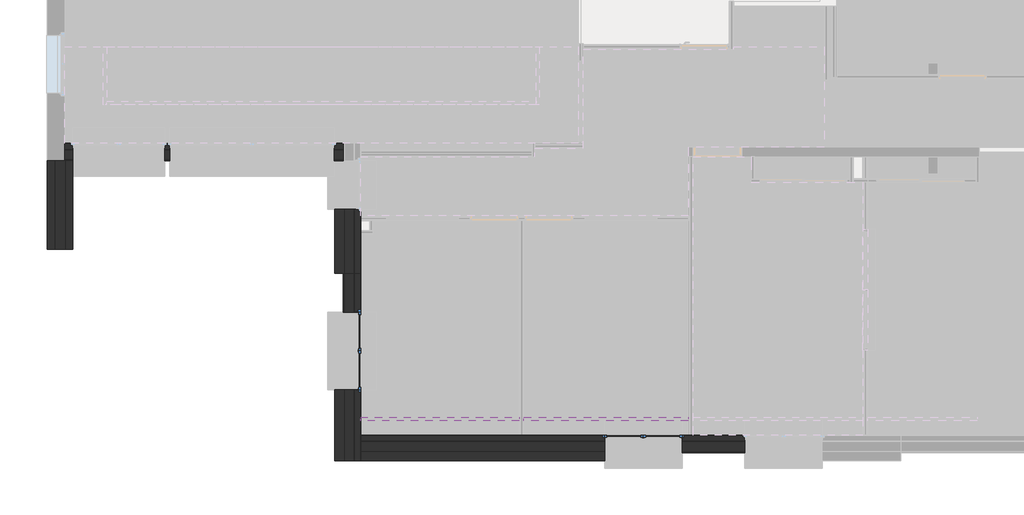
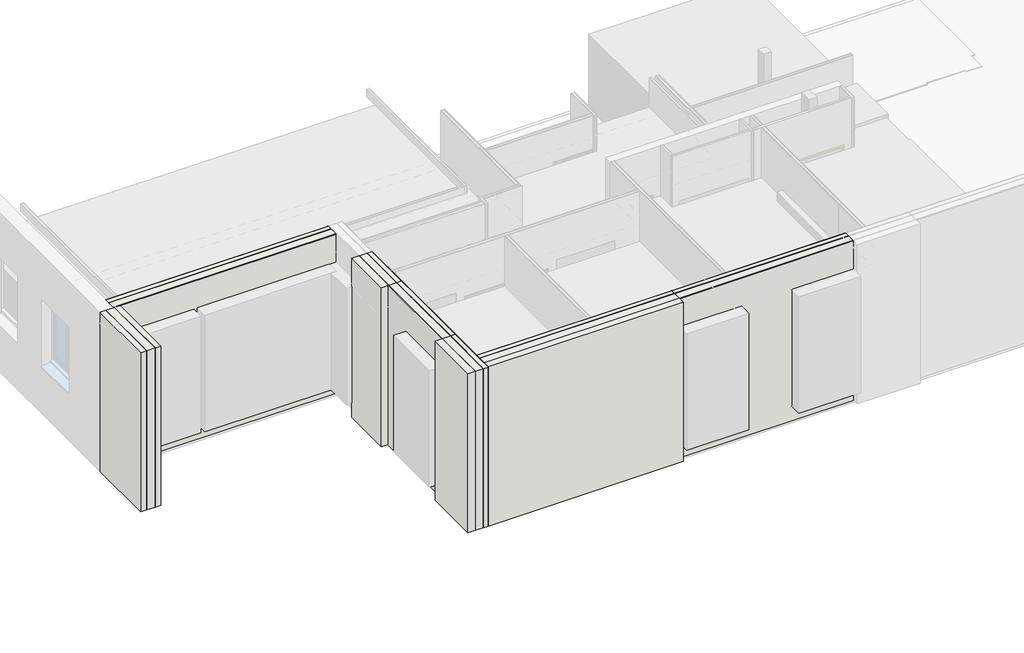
# One storey, part 1 of 8: 9 walls, 2 windows.
"""IFC4 building model written with IfcOpenShell, lengths in millimetres."""

from ifc_helpers import new_model, si_unit, frame, origin, place, context, project, spatial, polyline, outline, extrude, faceted_brep, transform, mapped, element, save
from components import window_4ef66e8a

model = new_model("IFC4")

# Units and contexts
model_context = context("Model", 3, world=origin())
ifc_project = project(units=[si_unit("LENGTHUNIT", "METRE", prefix="MILLI")], contexts=[model_context])

# Site, building, storey
site = spatial("IfcSite", under=ifc_project)
building = spatial("IfcBuilding", under=site)
storey = spatial("IfcBuildingStorey", under=building, Name="0 Mairie RDC 0.00", Elevation=0.0)

# Walls
placement = place(None, origin())
element("IfcWall", 1, ObjectType="Murs - Mur de base - A Enduit 2 + Béton 20 + vide 1 +  Doublage 13", at=placement, inside=storey, context=model_context, shape_type="Brep", body=[
    faceted_brep([(-18738.6355893, -14338.5662223, 3950.0), (-14238.6355893, -14338.5662223, 3950.0), (-14238.6355893, -14318.5662223, 3950.0), (-18738.6355893, -14318.5662223, 3950.0), (-18738.6355893, -14338.5662223, -400.0), (-18738.6355893, -14318.5662223, -400.0), (-14238.6355893, -14318.5662223, -400.0), (-14238.6355893, -14338.5662223, -400.0), (-18738.6355893, -14338.5662223, 3185.0), (-17138.6355893, -14338.5662223, 3185.0), (-17138.6355893, -14338.5662223, 5.5708141), (-18738.6355893, -14338.5662223, 5.5708141), (-14238.6355893, -14338.5662223, 5.5708141), (-15838.6355893, -14338.5662223, 5.5708141), (-15838.6355893, -14338.5662223, 3185.0), (-14238.6355893, -14338.5662223, 3185.0), (-14238.6355893, -14318.5662223, 3185.0), (-14238.6355893, -14318.5662223, 7.6728988), (-15838.6355893, -14318.5662223, 3185.0), (-15838.6355893, -14318.5662223, 7.6728988), (-18738.6355893, -14318.5662223, 7.6728988), (-17138.6355893, -14318.5662223, 7.6728988), (-17138.6355893, -14318.5662223, 3185.0), (-18738.6355893, -14318.5662223, 3185.0)], [[[0, 1, 2, 3]], [[4, 5, 6, 7]], [[1, 0, 8, 9, 10, 11, 4, 7, 12, 13, 14, 15]], [[2, 1, 15, 16]], [[7, 6, 17, 12]], [[3, 2, 16, 18, 19, 17, 6, 5, 20, 21, 22, 23]], [[0, 3, 23, 8]], [[5, 4, 11, 20]], [[15, 14, 18, 16]], [[13, 12, 17, 19]], [[14, 13, 19, 18]], [[9, 22, 21, 10]], [[22, 9, 8, 23]], [[10, 21, 20, 11]]]),
    faceted_brep([(-18738.6355893, -14318.5662223, 3950.0), (-14238.6355893, -14318.5662223, 3950.0), (-14238.6355893, -14118.5662223, 3950.0), (-18738.6355893, -14118.5662223, 3950.0), (-18738.6355893, -14318.5662223, -400.0), (-18738.6355893, -14118.5662223, -400.0), (-14238.6355893, -14118.5662223, -400.0), (-14238.6355893, -14318.5662223, -400.0), (-18738.6355893, -14318.5662223, 3185.0), (-17138.6355893, -14318.5662223, 3185.0), (-17138.6355893, -14318.5662223, 7.6728988), (-18738.6355893, -14318.5662223, 7.6728988), (-14238.6355893, -14318.5662223, 7.6728988), (-15838.6355893, -14318.5662223, 7.6728988), (-15838.6355893, -14318.5662223, 3185.0), (-14238.6355893, -14318.5662223, 3185.0), (-14238.6355893, -14118.5662223, 3185.0), (-14238.6355893, -14118.5662223, 28.6937459), (-15838.6355893, -14118.5662223, 3185.0), (-15838.6355893, -14118.5662223, 28.6937459), (-18738.6355893, -14118.5662223, 28.6937459), (-17138.6355893, -14118.5662223, 28.6937459), (-17138.6355893, -14118.5662223, 3185.0), (-18738.6355893, -14118.5662223, 3185.0)], [[[0, 1, 2, 3]], [[4, 5, 6, 7]], [[1, 0, 8, 9, 10, 11, 4, 7, 12, 13, 14, 15]], [[2, 1, 15, 16]], [[7, 6, 17, 12]], [[3, 2, 16, 18, 19, 17, 6, 5, 20, 21, 22, 23]], [[0, 3, 23, 8]], [[5, 4, 11, 20]], [[15, 14, 18, 16]], [[13, 12, 17, 19]], [[14, 13, 19, 18]], [[9, 22, 21, 10]], [[22, 9, 8, 23]], [[10, 21, 20, 11]]]),
    faceted_brep([(-18738.6355893, -14118.5662223, 3950.0), (-14238.6355893, -14118.5662223, 3950.0), (-14238.6355893, -14108.5662223, 3950.0), (-18738.6355893, -14108.5662223, 3950.0), (-18738.6355893, -14118.5662223, -400.0), (-18738.6355893, -14108.5662223, -400.0), (-14238.6355893, -14108.5662223, -400.0), (-14238.6355893, -14118.5662223, -400.0), (-18738.6355893, -14118.5662223, 3185.0), (-17138.6355893, -14118.5662223, 3185.0), (-17138.6355893, -14118.5662223, 28.6937459), (-18738.6355893, -14118.5662223, 28.6937459), (-14238.6355893, -14118.5662223, 28.6937459), (-15838.6355893, -14118.5662223, 28.6937459), (-15838.6355893, -14118.5662223, 3185.0), (-14238.6355893, -14118.5662223, 3185.0), (-14238.6355893, -14108.5662223, 3185.0), (-14238.6355893, -14108.5662223, 29.7447882), (-15838.6355893, -14108.5662223, 3185.0), (-15838.6355893, -14108.5662223, 29.7447882), (-18738.6355893, -14108.5662223, 29.7447882), (-17138.6355893, -14108.5662223, 29.7447882), (-17138.6355893, -14108.5662223, 3185.0), (-18738.6355893, -14108.5662223, 3185.0)], [[[0, 1, 2, 3]], [[4, 5, 6, 7]], [[1, 0, 8, 9, 10, 11, 4, 7, 12, 13, 14, 15]], [[2, 1, 15, 16]], [[7, 6, 17, 12]], [[3, 2, 16, 18, 19, 17, 6, 5, 20, 21, 22, 23]], [[0, 3, 23, 8]], [[5, 4, 11, 20]], [[15, 14, 18, 16]], [[13, 12, 17, 19]], [[14, 13, 19, 18]], [[9, 22, 21, 10]], [[22, 9, 8, 23]], [[10, 21, 20, 11]]]),
    faceted_brep([(-18738.6355893, -14108.5662223, 3950.0), (-14238.6355893, -14108.5662223, 3950.0), (-14238.6355893, -13988.5662223, 3950.0), (-18738.6355893, -13988.5662223, 3950.0), (-18738.6355893, -14108.5662223, -400.0), (-18738.6355893, -13988.5662223, -400.0), (-14238.6355893, -13988.5662223, -400.0), (-14238.6355893, -14108.5662223, -400.0), (-18738.6355893, -14108.5662223, 3185.0), (-17138.6355893, -14108.5662223, 3185.0), (-17138.6355893, -14108.5662223, 29.7447882), (-18738.6355893, -14108.5662223, 29.7447882), (-14238.6355893, -14108.5662223, 29.7447882), (-15838.6355893, -14108.5662223, 29.7447882), (-15838.6355893, -14108.5662223, 3185.0), (-14238.6355893, -14108.5662223, 3185.0), (-14238.6355893, -14078.5662223, 3185.0), (-14238.6355893, -14078.5662223, 3195.0), (-14238.6355893, -14028.5662223, 3195.0), (-14238.6355893, -14028.5662223, 3235.0), (-14238.6355893, -13988.5662223, 3235.0), (-14238.6355893, -13988.5662223, 35.0), (-14238.6355893, -14058.5662223, 35.0), (-15888.6355893, -13988.5662223, 3235.0), (-15888.6355893, -13988.5662223, 35.0), (-18738.6355893, -13988.5662223, 35.0), (-17088.6355893, -13988.5662223, 35.0), (-17088.6355893, -13988.5662223, 3235.0), (-18738.6355893, -13988.5662223, 3235.0), (-18738.6355893, -14028.5662223, 3235.0), (-18738.6355893, -14028.5662223, 3195.0), (-18738.6355893, -14078.5662223, 3195.0), (-18738.6355893, -14078.5662223, 3185.0), (-18738.6355893, -14058.5662223, 35.0), (-15888.6355893, -14028.5662223, 35.0), (-15848.6355893, -14028.5662223, 35.0), (-15848.6355893, -14078.5662223, 35.0), (-15838.6355893, -14078.5662223, 35.0), (-15838.6355893, -14058.5662223, 35.0), (-15838.6355893, -14078.5662223, 3185.0), (-15848.6355893, -14028.5662223, 3195.0), (-15888.6355893, -14028.5662223, 3235.0), (-15848.6355893, -14078.5662223, 3195.0), (-17138.6355893, -14078.5662223, 35.0), (-17138.6355893, -14058.5662223, 35.0), (-17138.6355893, -14078.5662223, 3185.0), (-17128.6355893, -14078.5662223, 35.0), (-17128.6355893, -14028.5662223, 35.0), (-17088.6355893, -14028.5662223, 35.0), (-17088.6355893, -14028.5662223, 3235.0), (-17128.6355893, -14028.5662223, 3195.0), (-17128.6355893, -14078.5662223, 3195.0)], [[[0, 1, 2, 3]], [[4, 5, 6, 7]], [[1, 0, 8, 9, 10, 11, 4, 7, 12, 13, 14, 15]], [[2, 1, 15, 16, 17, 18, 19, 20]], [[7, 6, 21, 22, 12]], [[3, 2, 20, 23, 24, 21, 6, 5, 25, 26, 27, 28]], [[0, 3, 28, 29, 30, 31, 32, 8]], [[5, 4, 11, 33, 25]], [[22, 21, 24, 34, 35, 36, 37, 38]], [[15, 14, 39, 16]], [[13, 12, 22, 38]], [[19, 18, 40, 35, 34, 41]], [[17, 16, 39, 37, 36, 42]], [[20, 19, 41, 23]], [[18, 17, 42, 40]], [[24, 23, 41, 34]], [[36, 35, 40, 42]], [[14, 13, 38, 37, 39]], [[43, 44, 10, 9, 45]], [[44, 43, 46, 47, 48, 26, 25, 33]], [[32, 45, 9, 8]], [[44, 33, 11, 10]], [[48, 49, 27, 26]], [[48, 47, 50, 30, 29, 49]], [[47, 46, 51, 50]], [[43, 45, 32, 31, 51, 46]], [[27, 49, 29, 28]], [[50, 51, 31, 30]]]),
    faceted_brep([(-18738.6355893, -13988.5662223, 3950.0), (-14238.6355893, -13988.5662223, 3950.0), (-14238.6355893, -13978.5662223, 3950.0), (-18738.6355893, -13978.5662223, 3950.0), (-18738.6355893, -13988.5662223, -400.0), (-18738.6355893, -13978.5662223, -400.0), (-14238.6355893, -13978.5662223, -400.0), (-14238.6355893, -13988.5662223, -400.0), (-18738.6355893, -13988.5662223, 3235.0), (-17088.6355893, -13988.5662223, 3235.0), (-17088.6355893, -13988.5662223, 35.0), (-18738.6355893, -13988.5662223, 35.0), (-14238.6355893, -13988.5662223, 35.0), (-15888.6355893, -13988.5662223, 35.0), (-15888.6355893, -13988.5662223, 3235.0), (-14238.6355893, -13988.5662223, 3235.0), (-14238.6355893, -13978.5662223, 3235.0), (-14238.6355893, -13978.5662223, 35.0), (-15888.6355893, -13978.5662223, 3235.0), (-15888.6355893, -13978.5662223, 35.0), (-15838.6355893, -13978.5662223, 35.0), (-18738.6355893, -13978.5662223, 35.0), (-17138.6355893, -13978.5662223, 35.0), (-17088.6355893, -13978.5662223, 35.0), (-17088.6355893, -13978.5662223, 3235.0), (-18738.6355893, -13978.5662223, 3235.0)], [[[0, 1, 2, 3]], [[4, 5, 6, 7]], [[1, 0, 8, 9, 10, 11, 4, 7, 12, 13, 14, 15]], [[2, 1, 15, 16]], [[7, 6, 17, 12]], [[3, 2, 16, 18, 19, 20, 17, 6, 5, 21, 22, 23, 24, 25]], [[0, 3, 25, 8]], [[5, 4, 11, 21]], [[13, 12, 17, 20, 19]], [[15, 14, 18, 16]], [[14, 13, 19, 18]], [[10, 23, 22, 21, 11]], [[23, 10, 9, 24]], [[24, 9, 8, 25]]]),
])
element("IfcWall", 2, ObjectType="Murs - Mur de base - A Parement pierre 19 + Béton 20 + vide 1 +   Doublage 14", at=placement, inside=storey, context=model_context, shape_type="SolidModel", body=[
    faceted_brep([(-23778.2803137, -14508.5662223, 3950.0), (-18738.6355893, -14508.5662223, 3950.0), (-18738.6355893, -14318.5662223, 3950.0), (-23778.2803137, -14318.5662223, 3950.0), (-23778.2803137, -14508.5662223, -400.0), (-23778.2803137, -14318.5662223, -400.0), (-18738.6355893, -14318.5662223, -400.0), (-18738.6355893, -14508.5662223, -400.0), (-18738.6355893, -14508.5662223, 0.0), (-18738.6355893, -14508.5662223, 3185.0), (-18738.6355893, -14318.5662223, 7.6728988), (-18738.6355893, -14318.5662223, 3185.0)], [[[0, 1, 2, 3]], [[4, 5, 6, 7]], [[1, 0, 4, 7, 8, 9]], [[2, 1, 9, 8, 7, 6, 10, 11]], [[3, 2, 11, 10, 6, 5]], [[0, 3, 5, 4]]]),
    faceted_brep([(-23778.2803137, -14318.5662223, 3950.0), (-18738.6355893, -14318.5662223, 3950.0), (-18738.6355893, -14118.5662223, 3950.0), (-23778.2803137, -14118.5662223, 3950.0), (-23778.2803137, -14318.5662223, -400.0), (-23778.2803137, -14118.5662223, -400.0), (-18738.6355893, -14118.5662223, -400.0), (-18738.6355893, -14318.5662223, -400.0), (-18738.6355893, -14318.5662223, 7.6728988), (-18738.6355893, -14318.5662223, 3185.0), (-18738.6355893, -14118.5662223, 28.6937459), (-18738.6355893, -14118.5662223, 3185.0)], [[[0, 1, 2, 3]], [[4, 5, 6, 7]], [[1, 0, 4, 7, 8, 9]], [[2, 1, 9, 8, 7, 6, 10, 11]], [[3, 2, 11, 10, 6, 5]], [[0, 3, 5, 4]]]),
    faceted_brep([(-23778.2803137, -14118.5662223, 3950.0), (-18738.6355893, -14118.5662223, 3950.0), (-18738.6355893, -14108.5662223, 3950.0), (-23778.2803137, -14108.5662223, 3950.0), (-23778.2803137, -14118.5662223, -400.0), (-23778.2803137, -14108.5662223, -400.0), (-18738.6355893, -14108.5662223, -400.0), (-18738.6355893, -14118.5662223, -400.0), (-18738.6355893, -14118.5662223, 28.6937459), (-18738.6355893, -14118.5662223, 3185.0), (-18738.6355893, -14108.5662223, 29.7447882), (-18738.6355893, -14108.5662223, 3185.0)], [[[0, 1, 2, 3]], [[4, 5, 6, 7]], [[1, 0, 4, 7, 8, 9]], [[2, 1, 9, 8, 7, 6, 10, 11]], [[3, 2, 11, 10, 6, 5]], [[0, 3, 5, 4]]]),
    faceted_brep([(-23778.2803137, -14108.5662223, 3950.0), (-18738.6355893, -14108.5662223, 3950.0), (-18738.6355893, -13988.5662223, 3950.0), (-23778.2803137, -13988.5662223, 3950.0), (-23778.2803137, -14108.5662223, -400.0), (-23778.2803137, -13988.5662223, -400.0), (-18738.6355893, -13988.5662223, -400.0), (-18738.6355893, -14108.5662223, -400.0), (-18738.6355893, -14108.5662223, 29.7447882), (-18738.6355893, -14108.5662223, 3185.0), (-18738.6355893, -13988.5662223, 35.0), (-18738.6355893, -14058.5662223, 35.0), (-18738.6355893, -14078.5662223, 35.0), (-18738.6355893, -14078.5662223, 3185.0), (-18738.6355893, -14078.5662223, 3195.0), (-18738.6355893, -14028.5662223, 3195.0), (-18738.6355893, -14028.5662223, 3235.0), (-18738.6355893, -13988.5662223, 3235.0), (-18788.6355893, -13988.5662223, 3235.0), (-18788.6355893, -13988.5662223, 35.0), (-18748.6355893, -14078.5662223, 35.0), (-18788.6355893, -14028.5662223, 35.0), (-18748.6355893, -14028.5662223, 35.0), (-18788.6355893, -14028.5662223, 3235.0), (-18748.6355893, -14028.5662223, 3195.0), (-18748.6355893, -14078.5662223, 3195.0)], [[[0, 1, 2, 3]], [[4, 5, 6, 7]], [[1, 0, 4, 7, 8, 9]], [[2, 1, 9, 8, 7, 6, 10, 11, 12, 13, 14, 15, 16, 17]], [[3, 2, 17, 18, 19, 10, 6, 5]], [[0, 3, 5, 4]], [[20, 12, 11, 10, 19, 21, 22]], [[22, 21, 23, 16, 15, 24]], [[12, 20, 25, 14, 13]], [[16, 23, 18, 17]], [[25, 24, 15, 14]], [[23, 21, 19, 18]], [[20, 22, 24, 25]]]),
    extrude(outline(polyline([(3950.0, -18738.6355893), (3950.0, -23778.2803137), (-400.0, -23778.2803137), (-400.0, -18738.6355893), (35.0, -18738.6355893), (35.0, -18788.6355893), (3235.0, -18788.6355893), (3235.0, -18738.6355893), (3950.0, -18738.6355893)])), frame((0.0, -13988.5662223, 0.0), z_axis=(0.0, 1.0, 0.0), x_axis=(0.0, 0.0, 1.0)), (0.0, 0.0, 1.0), 10.0),
])
element("IfcWall", 3, ObjectType="Murs - Mur de base - A Parement pierre 19 + Béton 20 + vide 1 +   Doublage 14", at=placement, inside=storey, context=model_context, shape_type="SolidModel", body=[
    faceted_brep([(-24308.2803137, -13036.9624952, 3950.0), (-24308.2803137, -14508.5662223, 3950.0), (-24118.2803137, -14508.5662223, 3950.0), (-24118.2803137, -13036.9624952, 3950.0), (-24308.2803137, -13036.9624952, -400.0), (-24118.2803137, -13036.9624952, -400.0), (-24118.2803137, -14508.5662223, -400.0), (-24308.2803137, -14508.5662223, -400.0), (-24308.2803137, -13036.9624952, 3185.0), (-24308.2803137, -13036.9624952, 0.0), (-24118.2803137, -13036.9624952, 7.6728988), (-24118.2803137, -13036.9624952, 3185.0)], [[[0, 1, 2, 3]], [[4, 5, 6, 7]], [[1, 0, 8, 9, 4, 7]], [[2, 1, 7, 6]], [[3, 2, 6, 5, 10, 11]], [[0, 3, 11, 10, 5, 4, 9, 8]]]),
    faceted_brep([(-24118.2803137, -13036.9624952, 3950.0), (-24118.2803137, -14508.5662223, 3950.0), (-23918.2803137, -14508.5662223, 3950.0), (-23918.2803137, -13036.9624952, 3950.0), (-24118.2803137, -13036.9624952, -400.0), (-23918.2803137, -13036.9624952, -400.0), (-23918.2803137, -14508.5662223, -400.0), (-24118.2803137, -14508.5662223, -400.0), (-24118.2803137, -13036.9624952, 3185.0), (-24118.2803137, -13036.9624952, 7.6728988), (-23918.2803137, -13036.9624952, 28.6937459), (-23918.2803137, -13036.9624952, 3185.0)], [[[0, 1, 2, 3]], [[4, 5, 6, 7]], [[1, 0, 8, 9, 4, 7]], [[2, 1, 7, 6]], [[3, 2, 6, 5, 10, 11]], [[0, 3, 11, 10, 5, 4, 9, 8]]]),
    faceted_brep([(-23918.2803137, -13036.9624952, 3950.0), (-23918.2803137, -14508.5662223, 3950.0), (-23908.2803137, -14508.5662223, 3950.0), (-23908.2803137, -13036.9624952, 3950.0), (-23918.2803137, -13036.9624952, -400.0), (-23908.2803137, -13036.9624952, -400.0), (-23908.2803137, -14508.5662223, -400.0), (-23918.2803137, -14508.5662223, -400.0), (-23918.2803137, -13036.9624952, 3185.0), (-23918.2803137, -13036.9624952, 28.6937459), (-23908.2803137, -13036.9624952, 29.7447882), (-23908.2803137, -13036.9624952, 3185.0)], [[[0, 1, 2, 3]], [[4, 5, 6, 7]], [[1, 0, 8, 9, 4, 7]], [[2, 1, 7, 6]], [[3, 2, 6, 5, 10, 11]], [[0, 3, 11, 10, 5, 4, 9, 8]]]),
    faceted_brep([(-23908.2803137, -13036.9624952, 3950.0), (-23908.2803137, -14508.5662223, 3950.0), (-23788.2803137, -14508.5662223, 3950.0), (-23788.2803137, -13036.9624952, 3950.0), (-23908.2803137, -13036.9624952, -400.0), (-23788.2803137, -13036.9624952, -400.0), (-23788.2803137, -14508.5662223, -400.0), (-23908.2803137, -14508.5662223, -400.0), (-23908.2803137, -13036.9624952, 3185.0), (-23908.2803137, -13036.9624952, 29.7447882), (-23788.2803137, -13036.9624952, 35.0), (-23788.2803137, -13086.9624952, 35.0), (-23788.2803137, -13086.9624952, 3235.0), (-23788.2803137, -13036.9624952, 3235.0), (-23828.2803137, -13036.9624952, 3235.0), (-23828.2803137, -13036.9624952, 3195.0), (-23878.2803137, -13036.9624952, 3195.0), (-23878.2803137, -13036.9624952, 3185.0), (-23878.2803137, -13036.9624952, 35.0), (-23858.2803137, -13036.9624952, 35.0), (-23828.2803137, -13046.9624952, 35.0), (-23828.2803137, -13086.9624952, 35.0), (-23878.2803137, -13046.9624952, 35.0), (-23828.2803137, -13086.9624952, 3235.0), (-23828.2803137, -13046.9624952, 3195.0), (-23878.2803137, -13046.9624952, 3195.0)], [[[0, 1, 2, 3]], [[4, 5, 6, 7]], [[1, 0, 8, 9, 4, 7]], [[2, 1, 7, 6]], [[3, 2, 6, 5, 10, 11, 12, 13]], [[0, 3, 13, 14, 15, 16, 17, 18, 19, 10, 5, 4, 9, 8]], [[20, 21, 11, 10, 19, 18, 22]], [[21, 23, 12, 11]], [[21, 20, 24, 15, 14, 23]], [[20, 22, 25, 24]], [[22, 18, 17, 16, 25]], [[12, 23, 14, 13]], [[24, 25, 16, 15]]]),
    extrude(outline(polyline([(-14508.5662223, 3950.0), (-13036.9624952, 3950.0), (-13036.9624952, 3235.0), (-13086.9624952, 3235.0), (-13086.9624952, 35.0), (-13036.9624952, 35.0), (-13036.9624952, -400.0), (-14508.5662223, -400.0), (-14508.5662223, 3950.0)])), frame((-23788.2803137, 0.0, 0.0), z_axis=(1.0, 0.0, 0.0), x_axis=(0.0, 1.0, 0.0)), (0.0, 0.0, 1.0), 10.0),
])
element("IfcWall", 4, ObjectType="Murs - Mur de base - A Enduit 2 + Béton 20 + vide 1 +  Doublage 13", at=placement, inside=storey, context=model_context, shape_type="Brep", body=[
    faceted_brep([(-24138.2803137, -10630.5073036, 3950.0), (-24138.2803137, -13036.9624952, 3950.0), (-24118.2803137, -13036.9624952, 3950.0), (-24118.2803137, -10630.5073036, 3950.0), (-24138.2803137, -10630.5073036, -400.0), (-24118.2803137, -10630.5073036, -400.0), (-24118.2803137, -13036.9624952, -400.0), (-24138.2803137, -13036.9624952, -400.0), (-24138.2803137, -13036.9624952, 5.5708141), (-24138.2803137, -11436.9624952, 5.5708141), (-24138.2803137, -11436.9624952, 3185.0), (-24138.2803137, -13036.9624952, 3185.0), (-24118.2803137, -13036.9624952, 3185.0), (-24118.2803137, -13036.9624952, 7.6728988), (-24118.2803137, -11436.9624952, 3185.0), (-24118.2803137, -11436.9624952, 7.6728988)], [[[0, 1, 2, 3]], [[4, 5, 6, 7]], [[1, 0, 4, 7, 8, 9, 10, 11]], [[2, 1, 11, 12]], [[7, 6, 13, 8]], [[3, 2, 12, 14, 15, 13, 6, 5]], [[0, 3, 5, 4]], [[10, 14, 12, 11]], [[15, 9, 8, 13]], [[14, 10, 9, 15]]]),
    faceted_brep([(-24118.2803137, -10630.5073036, 3950.0), (-24118.2803137, -13036.9624952, 3950.0), (-23918.2803137, -13036.9624952, 3950.0), (-23918.2803137, -10630.5073036, 3950.0), (-24118.2803137, -10630.5073036, -400.0), (-23918.2803137, -10630.5073036, -400.0), (-23918.2803137, -13036.9624952, -400.0), (-24118.2803137, -13036.9624952, -400.0), (-24118.2803137, -13036.9624952, 7.6728988), (-24118.2803137, -11436.9624952, 7.6728988), (-24118.2803137, -11436.9624952, 3185.0), (-24118.2803137, -13036.9624952, 3185.0), (-23918.2803137, -13036.9624952, 3185.0), (-23918.2803137, -13036.9624952, 28.6937459), (-23918.2803137, -11436.9624952, 3185.0), (-23918.2803137, -11436.9624952, 28.6937459)], [[[0, 1, 2, 3]], [[4, 5, 6, 7]], [[1, 0, 4, 7, 8, 9, 10, 11]], [[2, 1, 11, 12]], [[7, 6, 13, 8]], [[3, 2, 12, 14, 15, 13, 6, 5]], [[0, 3, 5, 4]], [[10, 14, 12, 11]], [[15, 9, 8, 13]], [[14, 10, 9, 15]]]),
    faceted_brep([(-23918.2803137, -10630.5073036, 3950.0), (-23918.2803137, -13036.9624952, 3950.0), (-23908.2803137, -13036.9624952, 3950.0), (-23908.2803137, -10630.5073036, 3950.0), (-23918.2803137, -10630.5073036, -400.0), (-23908.2803137, -10630.5073036, -400.0), (-23908.2803137, -13036.9624952, -400.0), (-23918.2803137, -13036.9624952, -400.0), (-23918.2803137, -13036.9624952, 28.6937459), (-23918.2803137, -11436.9624952, 28.6937459), (-23918.2803137, -11436.9624952, 3185.0), (-23918.2803137, -13036.9624952, 3185.0), (-23908.2803137, -13036.9624952, 3185.0), (-23908.2803137, -13036.9624952, 29.7447882), (-23908.2803137, -11436.9624952, 3185.0), (-23908.2803137, -11436.9624952, 29.7447882)], [[[0, 1, 2, 3]], [[4, 5, 6, 7]], [[1, 0, 4, 7, 8, 9, 10, 11]], [[2, 1, 11, 12]], [[7, 6, 13, 8]], [[3, 2, 12, 14, 15, 13, 6, 5]], [[0, 3, 5, 4]], [[10, 14, 12, 11]], [[15, 9, 8, 13]], [[14, 10, 9, 15]]]),
    faceted_brep([(-23908.2803137, -10630.5073036, 3950.0), (-23908.2803137, -13036.9624952, 3950.0), (-23788.2803137, -13036.9624952, 3950.0), (-23788.2803137, -10630.5073036, 3950.0), (-23908.2803137, -10630.5073036, -400.0), (-23788.2803137, -10630.5073036, -400.0), (-23788.2803137, -13036.9624952, -400.0), (-23908.2803137, -13036.9624952, -400.0), (-23908.2803137, -13036.9624952, 29.7447882), (-23908.2803137, -11436.9624952, 29.7447882), (-23908.2803137, -11436.9624952, 3185.0), (-23908.2803137, -13036.9624952, 3185.0), (-23878.2803137, -13036.9624952, 3185.0), (-23878.2803137, -13036.9624952, 3195.0), (-23828.2803137, -13036.9624952, 3195.0), (-23828.2803137, -13036.9624952, 3235.0), (-23788.2803137, -13036.9624952, 3235.0), (-23788.2803137, -13036.9624952, 35.0), (-23858.2803137, -13036.9624952, 35.0), (-23788.2803137, -11386.9624952, 3235.0), (-23788.2803137, -11386.9624952, 35.0), (-23858.2803137, -11436.9624952, 35.0), (-23828.2803137, -11386.9624952, 35.0), (-23828.2803137, -11426.9624952, 35.0), (-23878.2803137, -11426.9624952, 35.0), (-23878.2803137, -11436.9624952, 35.0), (-23878.2803137, -11436.9624952, 3185.0), (-23828.2803137, -11386.9624952, 3235.0), (-23828.2803137, -11426.9624952, 3195.0), (-23878.2803137, -11426.9624952, 3195.0)], [[[0, 1, 2, 3]], [[4, 5, 6, 7]], [[1, 0, 4, 7, 8, 9, 10, 11]], [[2, 1, 11, 12, 13, 14, 15, 16]], [[7, 6, 17, 18, 8]], [[3, 2, 16, 19, 20, 17, 6, 5]], [[0, 3, 5, 4]], [[21, 18, 17, 20, 22, 23, 24, 25]], [[26, 12, 11, 10]], [[18, 21, 9, 8]], [[23, 22, 27, 15, 14, 28]], [[25, 24, 29, 13, 12, 26]], [[15, 27, 19, 16]], [[29, 28, 14, 13]], [[27, 22, 20, 19]], [[24, 23, 28, 29]], [[21, 25, 26, 10, 9]]]),
    faceted_brep([(-23788.2803137, -10630.5073036, 3950.0), (-23788.2803137, -13036.9624952, 3950.0), (-23778.2803137, -13036.9624952, 3950.0), (-23778.2803137, -10630.5073036, 3950.0), (-23788.2803137, -10630.5073036, -400.0), (-23778.2803137, -10630.5073036, -400.0), (-23778.2803137, -13036.9624952, -400.0), (-23788.2803137, -13036.9624952, -400.0), (-23788.2803137, -13036.9624952, 35.0), (-23788.2803137, -11386.9624952, 35.0), (-23788.2803137, -11386.9624952, 3235.0), (-23788.2803137, -13036.9624952, 3235.0), (-23778.2803137, -13036.9624952, 3235.0), (-23778.2803137, -13036.9624952, 35.0), (-23778.2803137, -11386.9624952, 3235.0), (-23778.2803137, -11386.9624952, 35.0), (-23778.2803137, -11436.9624952, 35.0)], [[[0, 1, 2, 3]], [[4, 5, 6, 7]], [[1, 0, 4, 7, 8, 9, 10, 11]], [[2, 1, 11, 12]], [[7, 6, 13, 8]], [[3, 2, 12, 14, 15, 16, 13, 6, 5]], [[0, 3, 5, 4]], [[15, 9, 8, 13, 16]], [[10, 14, 12, 11]], [[9, 15, 14, 10]]]),
])
element("IfcWall", 5, ObjectType="Murs - Mur de base - A Parement pierre 19 + Béton 20 + vide 1 +   Doublage 14", at=placement, inside=storey, context=model_context, shape_type="SolidModel", body=[
    faceted_brep([(-24308.2803137, -9310.0211289, 3950.0), (-24308.2803137, -10630.5073036, 3950.0), (-24118.2803137, -10630.5073036, 3950.0), (-24118.2803137, -9310.0211289, 3950.0), (-24308.2803137, -9310.0211289, -400.0), (-24118.2803137, -9310.0211289, -400.0), (-24118.2803137, -10630.5073036, -400.0), (-24308.2803137, -10630.5073036, -400.0), (-24308.2803137, -9310.0211289, 3185.0), (-24308.2803137, -9310.0211289, 0.0), (-24118.2803137, -9310.0211289, 7.6728988), (-24118.2803137, -9310.0211289, 3185.0)], [[[0, 1, 2, 3]], [[4, 5, 6, 7]], [[1, 0, 8, 9, 4, 7]], [[2, 1, 7, 6]], [[3, 2, 6, 5, 10, 11]], [[0, 3, 11, 10, 5, 4, 9, 8]]]),
    faceted_brep([(-24118.2803137, -9310.0211289, 3950.0), (-24118.2803137, -10630.5073036, 3950.0), (-23918.2803137, -10630.5073036, 3950.0), (-23918.2803137, -9310.0211289, 3950.0), (-24118.2803137, -9310.0211289, -400.0), (-23918.2803137, -9310.0211289, -400.0), (-23918.2803137, -10630.5073036, -400.0), (-24118.2803137, -10630.5073036, -400.0), (-24118.2803137, -9310.0211289, 3185.0), (-24118.2803137, -9310.0211289, 7.6728988), (-23918.2803137, -9310.0211289, 28.6937459), (-23918.2803137, -9310.0211289, 3185.0)], [[[0, 1, 2, 3]], [[4, 5, 6, 7]], [[1, 0, 8, 9, 4, 7]], [[2, 1, 7, 6]], [[3, 2, 6, 5, 10, 11]], [[0, 3, 11, 10, 5, 4, 9, 8]]]),
    faceted_brep([(-23918.2803137, -9310.0211289, 3950.0), (-23918.2803137, -10630.5073036, 3950.0), (-23908.2803137, -10630.5073036, 3950.0), (-23908.2803137, -9310.0211289, 3950.0), (-23918.2803137, -9310.0211289, -400.0), (-23908.2803137, -9310.0211289, -400.0), (-23908.2803137, -10630.5073036, -400.0), (-23918.2803137, -10630.5073036, -400.0), (-23918.2803137, -9310.0211289, 3185.0), (-23918.2803137, -9310.0211289, 28.6937459), (-23908.2803137, -9310.0211289, 29.7447882), (-23908.2803137, -9310.0211289, 3185.0)], [[[0, 1, 2, 3]], [[4, 5, 6, 7]], [[1, 0, 8, 9, 4, 7]], [[2, 1, 7, 6]], [[3, 2, 6, 5, 10, 11]], [[0, 3, 11, 10, 5, 4, 9, 8]]]),
    faceted_brep([(-23908.2803137, -9310.0211289, 3950.0), (-23908.2803137, -10630.5073036, 3950.0), (-23788.2803137, -10630.5073036, 3950.0), (-23788.2803137, -9310.0211289, 3950.0), (-23908.2803137, -9310.0211289, -400.0), (-23788.2803137, -9310.0211289, -400.0), (-23788.2803137, -10630.5073036, -400.0), (-23908.2803137, -10630.5073036, -400.0), (-23908.2803137, -9310.0211289, 3185.0), (-23908.2803137, -9310.0211289, 29.7447882), (-23788.2803137, -9310.0211289, 35.0), (-23788.2803137, -9360.0211289, 35.0), (-23788.2803137, -9360.0211289, 3235.0), (-23788.2803137, -9310.0211289, 3235.0), (-23828.2803137, -9310.0211289, 3235.0), (-23828.2803137, -9310.0211289, 3195.0), (-23878.2803137, -9310.0211289, 3195.0), (-23878.2803137, -9310.0211289, 3185.0), (-23878.2803137, -9310.0211289, 35.0), (-23858.2803137, -9310.0211289, 35.0), (-23828.2803137, -9320.0211289, 35.0), (-23828.2803137, -9360.0211289, 35.0), (-23878.2803137, -9320.0211289, 35.0), (-23828.2803137, -9360.0211289, 3235.0), (-23828.2803137, -9320.0211289, 3195.0), (-23878.2803137, -9320.0211289, 3195.0)], [[[0, 1, 2, 3]], [[4, 5, 6, 7]], [[1, 0, 8, 9, 4, 7]], [[2, 1, 7, 6]], [[3, 2, 6, 5, 10, 11, 12, 13]], [[0, 3, 13, 14, 15, 16, 17, 18, 19, 10, 5, 4, 9, 8]], [[20, 21, 11, 10, 19, 18, 22]], [[21, 23, 12, 11]], [[21, 20, 24, 15, 14, 23]], [[20, 22, 25, 24]], [[22, 18, 17, 16, 25]], [[12, 23, 14, 13]], [[24, 25, 16, 15]]]),
    extrude(outline(polyline([(-10630.5073036, 3950.0), (-9310.0211289, 3950.0), (-9310.0211289, 3235.0), (-9360.0211289, 3235.0), (-9360.0211289, 35.0), (-9310.0211289, 35.0), (-9310.0211289, -400.0), (-10630.5073036, -400.0), (-10630.5073036, 3950.0)])), frame((-23788.2803137, 0.0, 0.0), z_axis=(1.0, 0.0, 0.0), x_axis=(0.0, 1.0, 0.0)), (0.0, 0.0, 1.0), 10.0),
])
element("IfcWall", 6, ObjectType="Murs - Mur de base - A Enduit 2 + Béton 20 + vide 1 +  Doublage 13", at=placement, inside=storey, context=model_context, shape_type="Brep", body=[
    faceted_brep([(-29887.0149756, -8313.0211289, 3950.0), (-24138.2803137, -8313.0211289, 3950.0), (-24138.2803137, -8293.0211289, 3950.0), (-29887.0149756, -8293.0211289, 3950.0), (-29887.0149756, -8313.0211289, -400.0), (-29887.0149756, -8293.0211289, -400.0), (-24138.2803137, -8293.0211289, -400.0), (-24138.2803137, -8313.0211289, -400.0), (-27823.4832661, -8313.0211289, 3185.0), (-27823.4832661, -8313.0211289, 5.5708141), (-29723.4832661, -8313.0211289, 5.5708141), (-29723.4832661, -8313.0211289, 3185.0), (-24322.6070707, -8313.0211289, 3185.0), (-24322.6070707, -8313.0211289, 5.5708141), (-27722.6070707, -8313.0211289, 5.5708141), (-27722.6070707, -8313.0211289, 3185.0), (-27823.4832661, -8293.0211289, 7.6728988), (-27823.4832661, -8293.0211289, 3185.0), (-29723.4832661, -8293.0211289, 3185.0), (-29723.4832661, -8293.0211289, 7.6728988), (-24322.6070707, -8293.0211289, 7.6728988), (-24322.6070707, -8293.0211289, 3185.0), (-27722.6070707, -8293.0211289, 3185.0), (-27722.6070707, -8293.0211289, 7.6728988)], [[[0, 1, 2, 3]], [[4, 5, 6, 7]], [[1, 0, 4, 7], [8, 9, 10, 11], [12, 13, 14, 15]], [[2, 1, 7, 6]], [[3, 2, 6, 5], [16, 17, 18, 19], [20, 21, 22, 23]], [[0, 3, 5, 4]], [[9, 8, 17, 16]], [[8, 11, 18, 17]], [[10, 9, 16, 19]], [[11, 10, 19, 18]], [[12, 21, 20, 13]], [[21, 12, 15, 22]], [[13, 20, 23, 14]], [[22, 15, 14, 23]]]),
    faceted_brep([(-29887.0149756, -8293.0211289, 3950.0), (-24138.2803137, -8293.0211289, 3950.0), (-24138.2803137, -8093.0211289, 3950.0), (-29887.0149756, -8093.0211289, 3950.0), (-29887.0149756, -8293.0211289, -400.0), (-29887.0149756, -8093.0211289, -400.0), (-24138.2803137, -8093.0211289, -400.0), (-24138.2803137, -8293.0211289, -400.0), (-27823.4832661, -8293.0211289, 3185.0), (-27823.4832661, -8293.0211289, 7.6728988), (-29723.4832661, -8293.0211289, 7.6728988), (-29723.4832661, -8293.0211289, 3185.0), (-24322.6070707, -8293.0211289, 3185.0), (-24322.6070707, -8293.0211289, 7.6728988), (-27722.6070707, -8293.0211289, 7.6728988), (-27722.6070707, -8293.0211289, 3185.0), (-27823.4832661, -8093.0211289, 28.6937459), (-27823.4832661, -8093.0211289, 3185.0), (-29723.4832661, -8093.0211289, 3185.0), (-29723.4832661, -8093.0211289, 28.6937459), (-24322.6070707, -8093.0211289, 28.6937459), (-24322.6070707, -8093.0211289, 3185.0), (-27722.6070707, -8093.0211289, 3185.0), (-27722.6070707, -8093.0211289, 28.6937459)], [[[0, 1, 2, 3]], [[4, 5, 6, 7]], [[1, 0, 4, 7], [8, 9, 10, 11], [12, 13, 14, 15]], [[2, 1, 7, 6]], [[3, 2, 6, 5], [16, 17, 18, 19], [20, 21, 22, 23]], [[0, 3, 5, 4]], [[9, 8, 17, 16]], [[8, 11, 18, 17]], [[10, 9, 16, 19]], [[11, 10, 19, 18]], [[12, 21, 20, 13]], [[21, 12, 15, 22]], [[13, 20, 23, 14]], [[22, 15, 14, 23]]]),
    faceted_brep([(-29887.0149756, -8093.0211289, 3950.0), (-24138.2803137, -8093.0211289, 3950.0), (-24138.2803137, -8083.0211289, 3950.0), (-29887.0149756, -8083.0211289, 3950.0), (-29887.0149756, -8093.0211289, -400.0), (-29887.0149756, -8083.0211289, -400.0), (-24138.2803137, -8083.0211289, -400.0), (-24138.2803137, -8093.0211289, -400.0), (-27823.4832661, -8093.0211289, 3185.0), (-27823.4832661, -8093.0211289, 28.6937459), (-29723.4832661, -8093.0211289, 28.6937459), (-29723.4832661, -8093.0211289, 3185.0), (-24322.6070707, -8093.0211289, 3185.0), (-24322.6070707, -8093.0211289, 28.6937459), (-27722.6070707, -8093.0211289, 28.6937459), (-27722.6070707, -8093.0211289, 3185.0), (-27823.4832661, -8083.0211289, 29.7447882), (-27823.4832661, -8083.0211289, 3185.0), (-29723.4832661, -8083.0211289, 3185.0), (-29723.4832661, -8083.0211289, 29.7447882), (-24322.6070707, -8083.0211289, 29.7447882), (-24322.6070707, -8083.0211289, 3185.0), (-27722.6070707, -8083.0211289, 3185.0), (-27722.6070707, -8083.0211289, 29.7447882)], [[[0, 1, 2, 3]], [[4, 5, 6, 7]], [[1, 0, 4, 7], [8, 9, 10, 11], [12, 13, 14, 15]], [[2, 1, 7, 6]], [[3, 2, 6, 5], [16, 17, 18, 19], [20, 21, 22, 23]], [[0, 3, 5, 4]], [[9, 8, 17, 16]], [[8, 11, 18, 17]], [[10, 9, 16, 19]], [[11, 10, 19, 18]], [[12, 21, 20, 13]], [[21, 12, 15, 22]], [[13, 20, 23, 14]], [[22, 15, 14, 23]]]),
    faceted_brep([(-29887.0149756, -8083.0211289, 3950.0), (-24138.2803137, -8083.0211289, 3950.0), (-24138.2803137, -7963.0211289, 3950.0), (-29887.0149756, -7963.0211289, 3950.0), (-29887.0149756, -8083.0211289, -400.0), (-29887.0149756, -7963.0211289, -400.0), (-24138.2803137, -7963.0211289, -400.0), (-24138.2803137, -8083.0211289, -400.0), (-27823.4832661, -8083.0211289, 3185.0), (-27823.4832661, -8083.0211289, 29.7447882), (-29723.4832661, -8083.0211289, 29.7447882), (-29723.4832661, -8083.0211289, 3185.0), (-24322.6070707, -8083.0211289, 3185.0), (-24322.6070707, -8083.0211289, 29.7447882), (-27722.6070707, -8083.0211289, 29.7447882), (-27722.6070707, -8083.0211289, 3185.0), (-29773.4832661, -7963.0211289, 35.0), (-27773.4832661, -7963.0211289, 35.0), (-27773.4832661, -7963.0211289, 3235.0), (-29773.4832661, -7963.0211289, 3235.0), (-27772.6070707, -7963.0211289, 35.0), (-24272.6070707, -7963.0211289, 35.0), (-24272.6070707, -7963.0211289, 3235.0), (-27772.6070707, -7963.0211289, 3235.0), (-27823.4832661, -8053.0211289, 3185.0), (-27823.4832661, -8053.0211289, 35.0), (-27823.4832661, -8033.0211289, 35.0), (-29773.4832661, -8003.0211289, 35.0), (-29733.4832661, -8003.0211289, 35.0), (-29733.4832661, -8053.0211289, 35.0), (-29723.4832661, -8053.0211289, 35.0), (-29723.4832661, -8033.0211289, 35.0), (-27813.4832661, -8053.0211289, 35.0), (-27813.4832661, -8003.0211289, 35.0), (-27773.4832661, -8003.0211289, 35.0), (-29723.4832661, -8053.0211289, 3185.0), (-27773.4832661, -8003.0211289, 3235.0), (-27813.4832661, -8003.0211289, 3195.0), (-29733.4832661, -8003.0211289, 3195.0), (-29773.4832661, -8003.0211289, 3235.0), (-27813.4832661, -8053.0211289, 3195.0), (-29733.4832661, -8053.0211289, 3195.0), (-24322.6070707, -8053.0211289, 35.0), (-24322.6070707, -8033.0211289, 35.0), (-24322.6070707, -8053.0211289, 3185.0), (-24312.6070707, -8053.0211289, 35.0), (-24312.6070707, -8003.0211289, 35.0), (-24272.6070707, -8003.0211289, 35.0), (-27772.6070707, -8003.0211289, 35.0), (-27732.6070707, -8003.0211289, 35.0), (-27732.6070707, -8053.0211289, 35.0), (-27722.6070707, -8053.0211289, 35.0), (-27722.6070707, -8033.0211289, 35.0), (-27722.6070707, -8053.0211289, 3185.0), (-24272.6070707, -8003.0211289, 3235.0), (-24312.6070707, -8003.0211289, 3195.0), (-27732.6070707, -8003.0211289, 3195.0), (-27772.6070707, -8003.0211289, 3235.0), (-24312.6070707, -8053.0211289, 3195.0), (-27732.6070707, -8053.0211289, 3195.0)], [[[0, 1, 2, 3]], [[4, 5, 6, 7]], [[1, 0, 4, 7], [8, 9, 10, 11], [12, 13, 14, 15]], [[2, 1, 7, 6]], [[3, 2, 6, 5], [16, 17, 18, 19], [20, 21, 22, 23]], [[0, 3, 5, 4]], [[9, 8, 24, 25, 26]], [[17, 16, 27, 28, 29, 30, 31, 26, 25, 32, 33, 34]], [[8, 11, 35, 24]], [[10, 9, 26, 31]], [[18, 17, 34, 36]], [[34, 33, 37, 38, 28, 27, 39, 36]], [[33, 32, 40, 37]], [[25, 24, 35, 30, 29, 41, 40, 32]], [[19, 18, 36, 39]], [[38, 37, 40, 41]], [[16, 19, 39, 27]], [[29, 28, 38, 41]], [[11, 10, 31, 30, 35]], [[42, 43, 13, 12, 44]], [[43, 42, 45, 46, 47, 21, 20, 48, 49, 50, 51, 52]], [[53, 44, 12, 15]], [[43, 52, 14, 13]], [[47, 54, 22, 21]], [[47, 46, 55, 56, 49, 48, 57, 54]], [[46, 45, 58, 55]], [[42, 44, 53, 51, 50, 59, 58, 45]], [[54, 57, 23, 22]], [[56, 55, 58, 59]], [[57, 48, 20, 23]], [[50, 49, 56, 59]], [[52, 51, 53, 15, 14]]]),
    faceted_brep([(-29887.0149756, -7963.0211289, 3950.0), (-24138.2803137, -7963.0211289, 3950.0), (-24138.2803137, -7953.0211289, 3950.0), (-29887.0149756, -7953.0211289, 3950.0), (-29887.0149756, -7963.0211289, -400.0), (-29887.0149756, -7953.0211289, -400.0), (-24138.2803137, -7953.0211289, -400.0), (-24138.2803137, -7963.0211289, -400.0), (-27773.4832661, -7963.0211289, 35.0), (-29773.4832661, -7963.0211289, 35.0), (-29773.4832661, -7963.0211289, 3235.0), (-27773.4832661, -7963.0211289, 3235.0), (-24272.6070707, -7963.0211289, 35.0), (-27772.6070707, -7963.0211289, 35.0), (-27772.6070707, -7963.0211289, 3235.0), (-24272.6070707, -7963.0211289, 3235.0), (-29773.4832661, -7953.0211289, 35.0), (-29723.4832661, -7953.0211289, 35.0), (-27823.4832661, -7953.0211289, 35.0), (-27773.4832661, -7953.0211289, 35.0), (-27773.4832661, -7953.0211289, 3235.0), (-29773.4832661, -7953.0211289, 3235.0), (-27772.6070707, -7953.0211289, 35.0), (-27722.6070707, -7953.0211289, 35.0), (-24322.6070707, -7953.0211289, 35.0), (-24272.6070707, -7953.0211289, 35.0), (-24272.6070707, -7953.0211289, 3235.0), (-27772.6070707, -7953.0211289, 3235.0)], [[[0, 1, 2, 3]], [[4, 5, 6, 7]], [[1, 0, 4, 7], [8, 9, 10, 11], [12, 13, 14, 15]], [[2, 1, 7, 6]], [[3, 2, 6, 5], [16, 17, 18, 19, 20, 21], [22, 23, 24, 25, 26, 27]], [[0, 3, 5, 4]], [[9, 8, 19, 18, 17, 16]], [[8, 11, 20, 19]], [[11, 10, 21, 20]], [[10, 9, 16, 21]], [[22, 13, 12, 25, 24, 23]], [[25, 12, 15, 26]], [[26, 15, 14, 27]], [[13, 22, 27, 14]]]),
])
element("IfcWall", 7, ObjectType="Murs - Mur de base - A Parement pierre 15 + Béton 22 + Parement de pierre 15", at=placement, inside=storey, context=model_context, shape_type="SweptSolid", body=[
    extrude(outline(polyline([(-30243.4832661, -8313.0211289), (-30093.4832661, -8313.0211289), (-30093.4832661, -10137.533571), (-30243.4832661, -10137.533571), (-30243.4832661, -8313.0211289)])), frame((0.0, 0.0, -400.0), z_axis=(0.0, 0.0, 1.0), x_axis=(1.0, 0.0, 0.0)), (0.0, 0.0, 1.0), 4350.0),
    extrude(outline(polyline([(-30093.4832661, -8313.0211289), (-29873.4832661, -8313.0211289), (-29873.4832661, -10137.533571), (-30093.4832661, -10137.533571), (-30093.4832661, -8313.0211289)])), frame((0.0, 0.0, -400.0), z_axis=(0.0, 0.0, 1.0), x_axis=(1.0, 0.0, 0.0)), (0.0, 0.0, 1.0), 4350.0),
    extrude(outline(polyline([(-29873.4832661, -8313.0211289), (-29723.4832661, -8313.0211289), (-29723.4832661, -10137.533571), (-29873.4832661, -10137.533571), (-29873.4832661, -8313.0211289)])), frame((0.0, 0.0, -400.0), z_axis=(0.0, 0.0, 1.0), x_axis=(1.0, 0.0, 0.0)), (0.0, 0.0, 1.0), 4350.0),
])
element("IfcWall", 8, ObjectType="Murs - Mur de base - A cloison placostil 72 sèche", at=placement, inside=storey, context=model_context, shape_type="SweptSolid", body=[
    extrude(outline(polyline([(-23778.2803137, -13678.5662223), (-23778.2803137, -13668.5662223), (-20502.1562042, -13668.5662223), (-20502.1562042, -13678.5662223), (-23778.2803137, -13678.5662223)])), frame((0.0, 0.0, 2650.0), z_axis=(0.0, 0.0, 1.0), x_axis=(1.0, 0.0, 0.0)), (0.0, 0.0, 1.0), 510.0),
    extrude(outline(polyline([(-23778.2803137, -13668.5662223), (-23778.2803137, -13618.5662223), (-20502.1562042, -13618.5662223), (-20502.1562042, -13668.5662223), (-23778.2803137, -13668.5662223)])), frame((0.0, 0.0, 2650.0), z_axis=(0.0, 0.0, 1.0), x_axis=(1.0, 0.0, 0.0)), (0.0, 0.0, 1.0), 510.0),
    extrude(outline(polyline([(-23778.2803137, -13618.5662223), (-23778.2803137, -13608.5662223), (-20502.1562042, -13608.5662223), (-20502.1562042, -13618.5662223), (-23778.2803137, -13618.5662223)])), frame((0.0, 0.0, 2650.0), z_axis=(0.0, 0.0, 1.0), x_axis=(1.0, 0.0, 0.0)), (0.0, 0.0, 1.0), 510.0),
])
element("IfcWall", 9, ObjectType="Murs - Mur de base - A cloison placostil 72 sèche", at=placement, inside=storey, context=model_context, shape_type="SweptSolid", body=[
    extrude(outline(polyline([(-20402.1562042, -13678.5662223), (-20402.1562042, -13668.5662223), (-17005.446161, -13668.5662223), (-17005.446161, -13678.5662223), (-20402.1562042, -13678.5662223)])), frame((0.0, 0.0, 2650.0), z_axis=(0.0, 0.0, 1.0), x_axis=(1.0, 0.0, 0.0)), (0.0, 0.0, 1.0), 510.0),
    extrude(outline(polyline([(-20402.1562042, -13668.5662223), (-20402.1562042, -13618.5662223), (-17005.446161, -13618.5662223), (-17005.446161, -13668.5662223), (-20402.1562042, -13668.5662223)])), frame((0.0, 0.0, 2650.0), z_axis=(0.0, 0.0, 1.0), x_axis=(1.0, 0.0, 0.0)), (0.0, 0.0, 1.0), 510.0),
    extrude(outline(polyline([(-20402.1562042, -13618.5662223), (-20402.1562042, -13608.5662223), (-17005.446161, -13608.5662223), (-17005.446161, -13618.5662223), (-20402.1562042, -13618.5662223)])), frame((0.0, 0.0, 2650.0), z_axis=(0.0, 0.0, 1.0), x_axis=(1.0, 0.0, 0.0)), (0.0, 0.0, 1.0), 510.0),
])

# Windows
window_shape = window_4ef66e8a(model_context)
element("IfcWindow", 10, ObjectType="Fenêtres - PF 2 Vantaux - Droits - 1.60 x 3.15", at=placement, inside=storey, context=model_context, shape_type="MappedRepresentation", body=[
    mapped(window_shape, transform((-17088.6355893, -13658.5662223, 0.0), x_axis=(-1.0, 0.0, 0.0), y_axis=(0.0, -1.0, 0.0), z_axis=(0.0, 0.0, 1.0))),
])
element("IfcWindow", 11, ObjectType="Fenêtres - PF 2 Vantaux - Droits - 1.60 x 3.15", at=placement, inside=storey, context=model_context, shape_type="MappedRepresentation", body=[
    mapped(window_shape, transform((-23458.2803137, -13086.9624952, 0.0), x_axis=(0.0, 1.0, 0.0), y_axis=(-1.0, 0.0, 0.0), z_axis=(0.0, 0.0, 1.0))),
])

save(model, "model.ifc")
